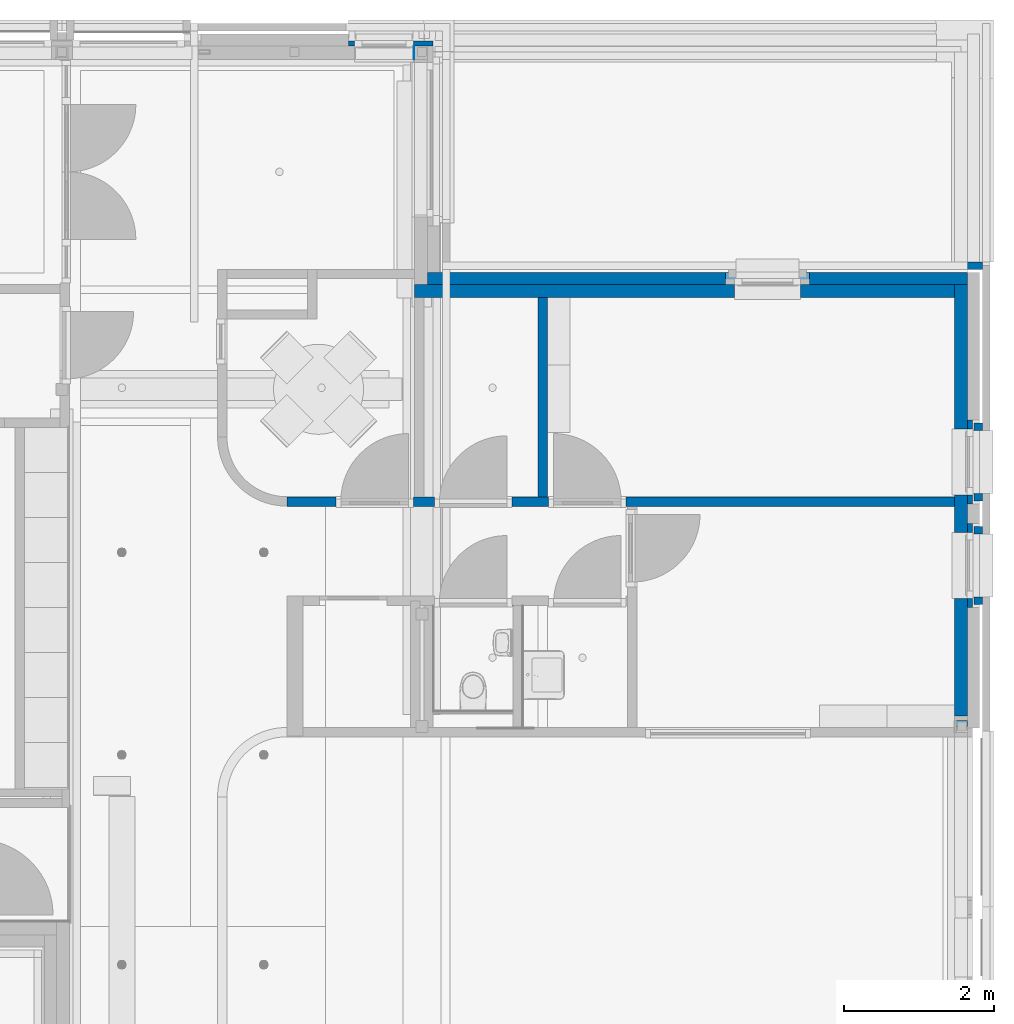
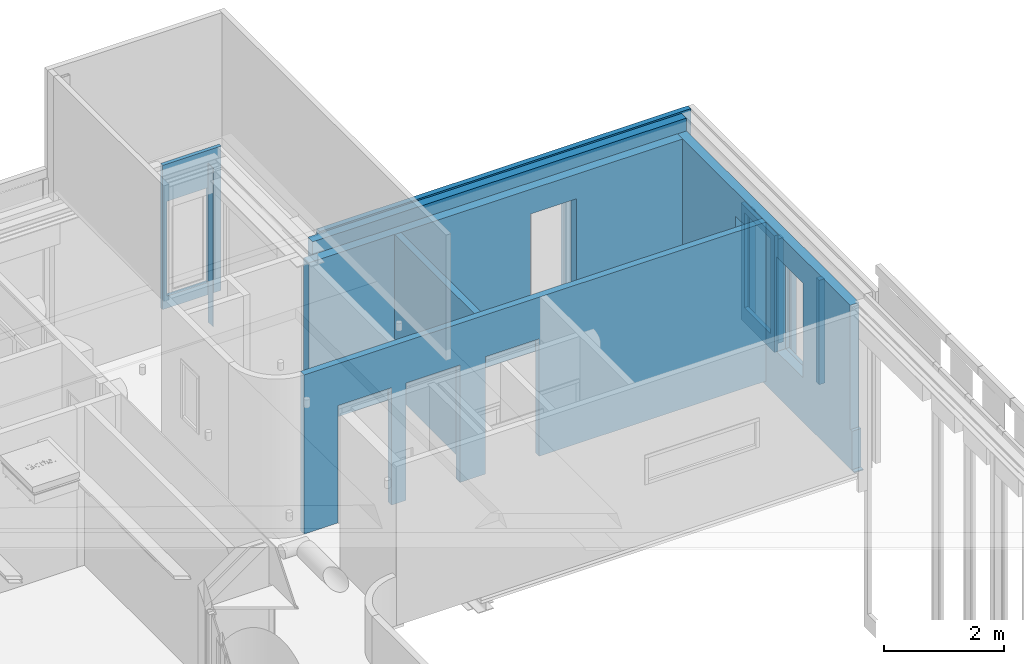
# One storey, part 58 of 128: 14 walls, 31 openings.
"""IFC2X3 building model written with IfcOpenShell, lengths in millimetres."""

from ifc_helpers import new_model, entity, si_unit, converted_unit, derived_unit, direction, frame, frame_2d, origin, origin_2d_with_axis, place, context, subcontext, project, spatial, polyline, rectangle, extrude, clip, bounded_halfspace, material, layer, layer_set, layer_usage, type_object, element, save


model = new_model("IFC2X3")

# Units and contexts
model_context = context("Model", 3, precision=0.01, world=origin(), true_north=direction((6.123031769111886e-17, 1.0)))
body_context = subcontext(model_context, "Body", "Model", "MODEL_VIEW")
ifc_project = project(units=[si_unit("LENGTHUNIT", "METRE", prefix="MILLI"), si_unit("AREAUNIT", "SQUARE_METRE"), si_unit("VOLUMEUNIT", "CUBIC_METRE"), converted_unit("PLANEANGLEUNIT", "DEGREE", entity("IfcRatioMeasure", 0.017453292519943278), si_unit("PLANEANGLEUNIT", "RADIAN"), dimensions=[0, 0, 0, 0, 0, 0, 0]), si_unit("MASSUNIT", "GRAM", prefix="KILO"), derived_unit("MASSDENSITYUNIT", [(si_unit("MASSUNIT", "GRAM", prefix="KILO"), 1), (si_unit("LENGTHUNIT", "METRE"), -3)]), derived_unit("IONCONCENTRATIONUNIT", [(si_unit("MASSUNIT", "GRAM", prefix="KILO"), 1), (si_unit("LENGTHUNIT", "METRE"), -3)]), derived_unit("MOMENTOFINERTIAUNIT", [(si_unit("LENGTHUNIT", "METRE"), 4)]), si_unit("TIMEUNIT", "SECOND"), si_unit("FREQUENCYUNIT", "HERTZ"), si_unit("THERMODYNAMICTEMPERATUREUNIT", "DEGREE_CELSIUS"), derived_unit("THERMALTRANSMITTANCEUNIT", [(si_unit("MASSUNIT", "GRAM", prefix="KILO"), 1), (si_unit("THERMODYNAMICTEMPERATUREUNIT", "KELVIN"), -1), (si_unit("TIMEUNIT", "SECOND"), -3)]), derived_unit("THERMALCONDUCTANCEUNIT", [(si_unit("MASSUNIT", "GRAM", prefix="KILO"), 1), (si_unit("THERMODYNAMICTEMPERATUREUNIT", "KELVIN"), -1), (si_unit("TIMEUNIT", "SECOND"), -3), (si_unit("LENGTHUNIT", "METRE"), 1)]), derived_unit("VOLUMETRICFLOWRATEUNIT", [(si_unit("LENGTHUNIT", "METRE"), 3), (si_unit("TIMEUNIT", "SECOND"), -1)]), derived_unit("MASSFLOWRATEUNIT", [(si_unit("MASSUNIT", "GRAM", prefix="KILO"), 1), (si_unit("TIMEUNIT", "SECOND"), -1)]), derived_unit("ROTATIONALFREQUENCYUNIT", [(si_unit("TIMEUNIT", "SECOND"), -1)]), si_unit("ELECTRICCURRENTUNIT", "AMPERE"), si_unit("ELECTRICVOLTAGEUNIT", "VOLT"), si_unit("POWERUNIT", "WATT"), si_unit("FORCEUNIT", "NEWTON", prefix="KILO"), si_unit("ILLUMINANCEUNIT", "LUX"), si_unit("LUMINOUSFLUXUNIT", "LUMEN"), si_unit("LUMINOUSINTENSITYUNIT", "CANDELA"), derived_unit("USERDEFINED", [(si_unit("MASSUNIT", "GRAM", prefix="KILO"), -1), (si_unit("LENGTHUNIT", "METRE"), -2), (si_unit("TIMEUNIT", "SECOND"), 3), (si_unit("LUMINOUSFLUXUNIT", "LUMEN"), 1)]), derived_unit("USERDEFINED", [(si_unit("MASSUNIT", "GRAM", prefix="KILO"), 1), (si_unit("TIMEUNIT", "SECOND"), -3), (si_unit("LENGTHUNIT", "METRE"), 3), (si_unit("ELECTRICCURRENTUNIT", "AMPERE"), -2)]), derived_unit("SOUNDPOWERUNIT", [(si_unit("MASSUNIT", "GRAM", prefix="KILO"), 1), (si_unit("TIMEUNIT", "SECOND"), -3), (si_unit("LENGTHUNIT", "METRE"), 2)]), derived_unit("SOUNDPRESSUREUNIT", [(si_unit("MASSUNIT", "GRAM", prefix="KILO"), 1), (si_unit("LENGTHUNIT", "METRE"), -1), (si_unit("TIMEUNIT", "SECOND"), -2)]), derived_unit("LINEARVELOCITYUNIT", [(si_unit("LENGTHUNIT", "METRE"), 1), (si_unit("TIMEUNIT", "SECOND"), -1)]), si_unit("PRESSUREUNIT", "PASCAL"), derived_unit("USERDEFINED", [(si_unit("MASSUNIT", "GRAM", prefix="KILO"), 1), (si_unit("LENGTHUNIT", "METRE"), -2), (si_unit("TIMEUNIT", "SECOND"), -2)]), derived_unit("LINEARFORCEUNIT", [(si_unit("MASSUNIT", "GRAM", prefix="KILO"), 1), (si_unit("TIMEUNIT", "SECOND"), -2)]), derived_unit("PLANARFORCEUNIT", [(si_unit("MASSUNIT", "GRAM", prefix="KILO"), 1), (si_unit("LENGTHUNIT", "METRE"), -1), (si_unit("TIMEUNIT", "SECOND"), -2)]), derived_unit("SPECIFICHEATCAPACITYUNIT", [(si_unit("THERMODYNAMICTEMPERATUREUNIT", "KELVIN"), -1), (si_unit("LENGTHUNIT", "METRE"), 2), (si_unit("TIMEUNIT", "SECOND"), -2)]), derived_unit("HEATINGVALUEUNIT", [(si_unit("LENGTHUNIT", "METRE"), 2), (si_unit("TIMEUNIT", "SECOND"), -2)]), derived_unit("VAPORPERMEABILITYUNIT", [(si_unit("LENGTHUNIT", "METRE"), -1), (si_unit("TIMEUNIT", "SECOND"), 1)]), derived_unit("DYNAMICVISCOSITYUNIT", [(si_unit("MASSUNIT", "GRAM", prefix="KILO"), 1), (si_unit("TIMEUNIT", "SECOND"), -1), (si_unit("LENGTHUNIT", "METRE"), -1)]), derived_unit("THERMALEXPANSIONCOEFFICIENTUNIT", [(si_unit("THERMODYNAMICTEMPERATUREUNIT", "KELVIN"), -1)]), derived_unit("MODULUSOFELASTICITYUNIT", [(si_unit("MASSUNIT", "GRAM", prefix="KILO"), 1), (si_unit("LENGTHUNIT", "METRE"), -1), (si_unit("TIMEUNIT", "SECOND"), -2)]), derived_unit("ISOTHERMALMOISTURECAPACITYUNIT", [(si_unit("LENGTHUNIT", "METRE"), 3), (si_unit("MASSUNIT", "GRAM", prefix="KILO"), -1)]), derived_unit("MOISTUREDIFFUSIVITYUNIT", [(si_unit("TIMEUNIT", "SECOND"), -1), (si_unit("LENGTHUNIT", "METRE"), 2)])], contexts=[model_context])

# Site, building, storey
site_placement = place(None, frame((0.0, 300.0, 0.0)))
site = spatial("IfcSite", under=ifc_project, at=site_placement, Name="<Kadastrale nummers>", CompositionType="ELEMENT")
building_placement = place(site_placement, origin())
building = spatial("IfcBuilding", under=site, at=building_placement, CompositionType="ELEMENT")
storey_placement = place(building_placement, frame((0.0, 0.0, 3560.0000331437)))
storey = spatial("IfcBuildingStorey", under=building, at=storey_placement, Name="01 eerste verdieping", CompositionType="ELEMENT", Elevation=3560.0000331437)

# Wall, opening
ifc_material_1 = material(Name="ISR_Metselwerk")
ifc_layer_1 = layer(ifc_material_1, 100.0)
ifc_layer_set_1 = layer_set([ifc_layer_1], Name="Basic Wall:21_DAT_metselwerk_100")
ifc_layer_usage_1 = layer_usage(ifc_layer_set_1, "AXIS2", "POSITIVE", -50.0)
wall_type_1 = type_object("IfcWallType", Name="Basic Wall:21_DAT_metselwerk_100", PredefinedType="STANDARD", material=ifc_layer_set_1)
wall_1_placement = place(storey_placement, frame((48875.0, 46950.0, 389.9999668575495), z_axis=(0.0, 0.0, 1.0), x_axis=(-1.0, 0.0, 0.0)))
wall_1 = element("IfcWallStandardCase", 1, at=wall_1_placement, inside=storey, type_object=wall_type_1, material=ifc_layer_usage_1, Name="Basic Wall:21_DAT_metselwerk_100", ObjectType="Basic Wall:21_DAT_metselwerk_100", context=body_context, shape_type="SweptSolid", body=[
    extrude(rectangle(XDim=7150.000000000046, YDim=100.00000000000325, at=frame_2d((3575.000000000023, -3.9825920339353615e-12), x_axis=(-1.0, 0.0))), origin(), (0.0, 0.0, 1.0), 3200.000035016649),
])
opening_1_placement = place(wall_1_placement, frame((48875.0, 46950.0, -389.9999668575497), z_axis=(0.0, 0.0, 1.0), x_axis=(-1.0, 0.0, 0.0)))
element("IfcOpeningElement", 2, at=opening_1_placement, cuts=wall_1, Name="Basic Wall:21_DAT_metselwerk_100", ObjectType="Opening", context=body_context, shape_type="SweptSolid", body=[
    extrude(rectangle(XDim=2124.999999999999, YDim=839.9999999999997, at=frame_2d((0.0, -7.958078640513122e-13), x_axis=(0.0, 1.0))), frame((46010.0, 47000.0, 1777.500001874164), z_axis=(0.0, -1.0, 0.0), x_axis=(-1.0, 0.0, 0.0)), (0.0, 0.0, 1.0), 100.00000000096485),
])

# Walls
ifc_layer_usage_2 = layer_usage(ifc_layer_set_1, "AXIS2", "NEGATIVE", 50.0)
wall_2_placement = place(storey_placement, frame((48875.0, 43422.12500266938, 715.0000018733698), z_axis=(0.0, 0.0, 1.0), x_axis=(-1.0, 0.0, 0.0)))
element("IfcWallStandardCase", 3, at=wall_2_placement, inside=storey, type_object=wall_type_1, material=ifc_layer_usage_2, Name="Basic Wall:21_DAT_metselwerk_100", ObjectType="Basic Wall:21_DAT_metselwerk_100", context=body_context, shape_type="SweptSolid", body=[
    extrude(rectangle(XDim=110.00000000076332, YDim=99.9999999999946, at=frame_2d((55.00000000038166, 2.3447910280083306e-12), x_axis=(-1.0, 0.0))), origin(), (0.0, 0.0, 1.0), 2125.0000000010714),
])
wall_3_placement = place(storey_placement, frame((48875.0, 42482.1250026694, 715.0000018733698), z_axis=(0.0, 0.0, 1.0), x_axis=(-1.0, 0.0, 0.0)))
element("IfcWallStandardCase", 4, at=wall_3_placement, inside=storey, type_object=wall_type_1, material=ifc_layer_usage_1, Name="Basic Wall:21_DAT_metselwerk_100", ObjectType="Basic Wall:21_DAT_metselwerk_100", context=body_context, shape_type="SweptSolid", body=[
    extrude(rectangle(XDim=110.00000000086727, YDim=99.9999999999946, at=frame_2d((55.00000000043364, 2.3447910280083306e-12), x_axis=(-1.0, 0.0))), origin(), (0.0, 0.0, 1.0), 2125.0000000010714),
])
wall_4_placement = place(storey_placement, frame((48875.0, 44802.12500266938, 715.0000018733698), z_axis=(0.0, 0.0, 1.0), x_axis=(-1.0, 0.0, 0.0)))
element("IfcWallStandardCase", 5, at=wall_4_placement, inside=storey, type_object=wall_type_1, material=ifc_layer_usage_2, Name="Basic Wall:21_DAT_metselwerk_100", ObjectType="Basic Wall:21_DAT_metselwerk_100", context=body_context, shape_type="SweptSolid", body=[
    extrude(rectangle(XDim=110.00000000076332, YDim=99.9999999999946, at=frame_2d((55.00000000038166, 2.3447910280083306e-12), x_axis=(-1.0, 0.0))), origin(), (0.0, 0.0, 1.0), 2125.0000000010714),
])
wall_5_placement = place(storey_placement, frame((48875.0, 43862.12500266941, 715.0000018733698), z_axis=(0.0, 0.0, 1.0), x_axis=(-1.0, 0.0, 0.0)))
element("IfcWallStandardCase", 6, at=wall_5_placement, inside=storey, type_object=wall_type_1, material=ifc_layer_usage_1, Name="Basic Wall:21_DAT_metselwerk_100", ObjectType="Basic Wall:21_DAT_metselwerk_100", context=body_context, shape_type="SweptSolid", body=[
    extrude(rectangle(XDim=110.0000000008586, YDim=99.9999999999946, at=frame_2d((55.0000000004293, 2.3447910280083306e-12), x_axis=(-1.0, 0.0))), origin(), (0.0, 0.0, 1.0), 2125.0000000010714),
])
ifc_material_2 = material(Name="ISR_Gips")
ifc_layer_2 = layer(ifc_material_2, 1.0)
ifc_material_3 = material(Name="ISR_Binnenwand")
ifc_layer_3 = layer(ifc_material_3, 123.0)
ifc_layer_4 = layer(ifc_material_2, 1.0)
ifc_layer_set_2 = layer_set([ifc_layer_2, ifc_layer_3, ifc_layer_4], Name="Basic Wall:22_DAT_binnenwand_125")
ifc_layer_usage_3 = layer_usage(ifc_layer_set_2, "AXIS2", "NEGATIVE", 62.50000000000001)
wall_type_2 = type_object("IfcWallType", Name="Basic Wall:22_DAT_binnenwand_125", PredefinedType="STANDARD", material=ifc_layer_set_2)
wall_6_placement = place(storey_placement, frame((43012.500000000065, 46525.0, 90.00000187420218), z_axis=(0.0, 0.0, 1.0), x_axis=(0.0, -1.0, 0.0)))
element("IfcWallStandardCase", 7, at=wall_6_placement, inside=storey, type_object=wall_type_2, material=ifc_layer_usage_3, Name="Basic Wall:22_DAT_binnenwand_125", ObjectType="Basic Wall:22_DAT_binnenwand_125", context=body_context, shape_type="SweptSolid", body=[
    extrude(rectangle(XDim=2660.0000000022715, YDim=125.00000000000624, at=frame_2d((1330.0000000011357, 0.0), x_axis=(-1.0, 0.0))), origin(), (0.0, 0.0, 1.0), 3239.9999999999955),
])

# Wall, openings
wall_7_placement = place(storey_placement, frame((48500.0, 43802.49999999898, 90.00000187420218), z_axis=(0.0, 0.0, 1.0), x_axis=(-1.0, 0.0, 0.0)))
wall_7 = element("IfcWallStandardCase", 8, at=wall_7_placement, inside=storey, type_object=wall_type_2, material=ifc_layer_usage_3, Name="Basic Wall:22_DAT_binnenwand_125", ObjectType="Basic Wall:22_DAT_binnenwand_125", context=body_context, shape_type="SweptSolid", body=[
    extrude(rectangle(XDim=8900.000000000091, YDim=125.00000000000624, at=frame_2d((4450.0000000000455, -2.9736213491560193e-12), x_axis=(-1.0, 0.0))), origin(), (0.0, 0.0, 1.0), 3239.9999999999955),
])
opening_2_placement = place(wall_7_placement, origin())
element("IfcOpeningElement", 9, at=opening_2_placement, cuts=wall_7, Name="Basic Wall:22_DAT_binnenwand_125", ObjectType="Opening", context=body_context, shape_type="SweptSolid", body=[
    extrude(rectangle(XDim=2390.0000000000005, YDim=1034.0000000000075, at=frame_2d((0.0, 0.0), x_axis=(0.0, 1.0))), frame((6418.0, -214.89999999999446, 1195.0), z_axis=(0.0, 1.0, 0.0), x_axis=(-1.0, 0.0, 0.0)), (0.0, 0.0, 1.0), 429.79999999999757),
])
opening_3_placement = place(wall_7_placement, origin())
element("IfcOpeningElement", 10, at=opening_3_placement, cuts=wall_7, Name="Basic Wall:22_DAT_binnenwand_125", ObjectType="Opening", context=body_context, shape_type="SweptSolid", body=[
    extrude(rectangle(XDim=2390.0000000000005, YDim=1034.0000000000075, at=frame_2d((0.0, 0.0), x_axis=(0.0, 1.0))), frame((7732.0, -214.89999999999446, 1195.0), z_axis=(0.0, 1.0, 0.0), x_axis=(-1.0, 0.0, 0.0)), (0.0, 0.0, 1.0), 429.79999999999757),
])
opening_4_placement = place(wall_7_placement, origin())
element("IfcOpeningElement", 11, at=opening_4_placement, cuts=wall_7, Name="Basic Wall:22_DAT_binnenwand_125", ObjectType="Opening", context=body_context, shape_type="SweptSolid", body=[
    extrude(rectangle(XDim=2390.0000000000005, YDim=1034.0000000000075, at=origin_2d_with_axis()), frame((4893.0, -214.90000000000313, 1195.0), z_axis=(0.0, 1.0, 0.0), x_axis=(0.0, 0.0, 1.0)), (0.0, 0.0, 1.0), 429.79999999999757),
])

# Wall, opening
ifc_layer_5 = layer(ifc_material_2, 1.0)
ifc_material_4 = material(Name="ISR_Kalkzandsteen")
ifc_layer_6 = layer(ifc_material_4, 173.0)
ifc_layer_7 = layer(ifc_material_2, 1.0)
ifc_layer_set_3 = layer_set([ifc_layer_5, ifc_layer_6, ifc_layer_7], Name="Basic Wall:28_DAT_kalkzandsteen_175mm")
ifc_layer_usage_4 = layer_usage(ifc_layer_set_3, "AXIS2", "NEGATIVE", 87.49999999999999)
wall_type_3 = type_object("IfcWallType", Name="Basic Wall:28_DAT_kalkzandsteen_175mm", PredefinedType="STANDARD", material=ifc_layer_set_3)
wall_8_placement = place(storey_placement, frame((41300.0, 46612.50000000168, 0.0)))
wall_8 = element("IfcWallStandardCase", 12, at=wall_8_placement, inside=storey, type_object=wall_type_3, material=ifc_layer_usage_4, Name="Basic Wall:28_DAT_kalkzandsteen_175mm", ObjectType="Basic Wall:28_DAT_kalkzandsteen_175mm", context=body_context, shape_type="SweptSolid", body=[
    extrude(rectangle(XDim=7199.999999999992, YDim=175.00000000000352, at=frame_2d((3599.999999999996, -4.334310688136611e-12), x_axis=(-1.0, 0.0))), origin(), (0.0, 0.0, 1.0), 3330.000001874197),
])
opening_5_placement = place(wall_8_placement, origin())
element("IfcOpeningElement", 13, at=opening_5_placement, cuts=wall_8, Name="Basic Wall:28_DAT_kalkzandsteen_175mm", ObjectType="Opening", context=body_context, shape_type="SweptSolid", body=[
    extrude(rectangle(XDim=1929.9999999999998, YDim=880.0000000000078, at=frame_2d((0.0, 5.684341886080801e-13), x_axis=(0.0, 1.0))), frame((4710.0, -239.90000000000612, 1865.0), z_axis=(0.0, 1.0, 0.0), x_axis=(-1.0, 0.0, 0.0)), (0.0, 0.0, 1.0), 479.80000000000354),
])

# Wall, openings
wall_9_placement = place(storey_placement, frame((48587.50000000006, 40799.99947471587, 0.0), z_axis=(0.0, 0.0, 1.0), x_axis=(0.0, 1.0, 0.0)))
wall_9 = element("IfcWallStandardCase", 14, at=wall_9_placement, inside=storey, type_object=wall_type_3, material=ifc_layer_usage_4, Name="Basic Wall:28_DAT_kalkzandsteen_175mm", ObjectType="Basic Wall:28_DAT_kalkzandsteen_175mm", context=body_context, shape_type="Clipping", body=[
    clip(clip(extrude(rectangle(XDim=5900.000525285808, YDim=175.00000000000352, at=frame_2d((2950.000262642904, -4.270361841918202e-12), x_axis=(-1.0, 0.0))), origin(), (0.0, 0.0, 1.0), 3330.000001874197), bounded_halfspace(frame((140.0, -87.50000000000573, 800.0000018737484), z_axis=(0.0, 0.0, -1.0), x_axis=(0.0, 1.0, 0.0)), True, frame((140.0, -87.50000000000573, 800.0000018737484), z_axis=(0.0, 0.0, -1.0), x_axis=(0.0, 1.0, 0.0)), polyline([(0.0, 0.0), (0.0, -60.0), (175.0, -60.0), (175.0, 0.0), (0.0, 0.0)]))), bounded_halfspace(frame((140.0, 87.49999999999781, 800.0000018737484), z_axis=(1.0, 0.0, 0.0), x_axis=(0.0, 1.0, 0.0)), True, frame((140.0, 87.49999999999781, 800.0000018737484), z_axis=(1.0, 0.0, 0.0), x_axis=(0.0, 1.0, 0.0)), polyline([(0.0, 0.0), (0.0, 2530.0), (-175.0, 2530.0), (-175.0, 0.0), (0.0, 0.0)]))),
])
opening_6_placement = place(wall_9_placement, origin())
element("IfcOpeningElement", 15, at=opening_6_placement, cuts=wall_9, Name="Basic Wall:28_DAT_kalkzandsteen_175mm", ObjectType="Opening", context=body_context, shape_type="SweptSolid", body=[
    extrude(rectangle(XDim=3310.0000290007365, YDim=159.99999999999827, at=frame_2d((-3.410605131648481e-13, 0.0), x_axis=(1.0, 0.0))), frame((0.0, -239.90000000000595, 1675.0000163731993), z_axis=(0.0, 1.0, 0.0), x_axis=(0.0, 0.0, 1.0)), (0.0, 0.0, 1.0), 479.80000000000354),
])
opening_7_placement = place(wall_9_placement, origin())
element("IfcOpeningElement", 16, at=opening_7_placement, cuts=wall_9, Name="Basic Wall:28_DAT_kalkzandsteen_175mm", ObjectType="Opening", context=body_context, shape_type="SweptSolid", body=[
    extrude(rectangle(XDim=1929.9999999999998, YDim=880.0000000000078, at=frame_2d((5.684341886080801e-13, 0.0), x_axis=(1.0, 0.0))), frame((2152.1255279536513, -239.9000000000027, 1865.0), z_axis=(0.0, 1.0, 0.0), x_axis=(0.0, 0.0, 1.0)), (0.0, 0.0, 1.0), 479.80000000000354),
])
opening_8_placement = place(wall_9_placement, origin())
element("IfcOpeningElement", 17, at=opening_8_placement, cuts=wall_9, Name="Basic Wall:28_DAT_kalkzandsteen_175mm", ObjectType="Opening", context=body_context, shape_type="SweptSolid", body=[
    extrude(rectangle(XDim=1929.9999999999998, YDim=880.0000000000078, at=frame_2d((5.684341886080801e-13, 0.0), x_axis=(1.0, 0.0))), frame((3532.1255279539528, -239.90000000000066, 1865.0), z_axis=(0.0, 1.0, 0.0), x_axis=(0.0, 0.0, 1.0)), (0.0, 0.0, 1.0), 479.80000000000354),
])

# Wall, opening
ifc_material_5 = material(Name="ISR_Isolatie")
ifc_layer_8 = layer(ifc_material_5, 160.0)
ifc_layer_set_4 = layer_set([ifc_layer_8], Name="Basic Wall:21_DAT_isolatie minerale wol_160")
ifc_layer_usage_5 = layer_usage(ifc_layer_set_4, "AXIS2", "NEGATIVE", 80.0)
wall_type_4 = type_object("IfcWallType", Name="Basic Wall:21_DAT_isolatie minerale wol_160", PredefinedType="STANDARD", material=ifc_layer_set_4)
wall_10_placement = place(storey_placement, frame((41475.0, 46780.0, 0.0)))
wall_10 = element("IfcWallStandardCase", 18, at=wall_10_placement, inside=storey, type_object=wall_type_4, material=ifc_layer_usage_5, Name="Basic Wall:21_DAT_isolatie minerale wol_160", ObjectType="Basic Wall:21_DAT_isolatie minerale wol_160", context=body_context, shape_type="SweptSolid", body=[
    extrude(rectangle(XDim=7200.000000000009, YDim=159.9999999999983, at=frame_2d((3600.0000000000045, 2.913225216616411e-13), x_axis=(-1.0, 0.0))), origin(), (0.0, 0.0, 1.0), 3590.000001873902),
])
opening_9_placement = place(wall_10_placement, origin())
element("IfcOpeningElement", 19, at=opening_9_placement, cuts=wall_10, Name="Basic Wall:21_DAT_isolatie minerale wol_160", ObjectType="Opening", context=body_context, shape_type="SweptSolid", body=[
    extrude(rectangle(XDim=2375.000035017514, YDim=1119.9999999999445, at=frame_2d((4.376943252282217e-12, 0.0), x_axis=(0.0, 1.0))), frame((4535.0, -232.39999999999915, 1777.4999843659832), z_axis=(0.0, 1.0, 0.0), x_axis=(-1.0, 0.0, 0.0)), (0.0, 0.0, 1.0), 464.7999999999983),
])

# Wall
ifc_layer_9 = layer(ifc_material_2, 12.5)
ifc_layer_10 = layer(ifc_material_2, 12.5)
ifc_material_6 = material(Name="ISR_Dak_isolatie(198)")
ifc_layer_11 = layer(ifc_material_6, 140.0)
ifc_material_7 = material(Name="ISR_Multiplex")
ifc_layer_12 = layer(ifc_material_7, 10.0)
ifc_layer_set_5 = layer_set([ifc_layer_9, ifc_layer_10, ifc_layer_11, ifc_layer_12], Name="Basic Wall:21_DAT_Hekwerk 175")
ifc_layer_usage_6 = layer_usage(ifc_layer_set_5, "AXIS2", "NEGATIVE", 87.5)
wall_type_5 = type_object("IfcWallType", Name="Basic Wall:21_DAT_Hekwerk 175", PredefinedType="STANDARD", material=ifc_layer_set_5)
wall_11_placement = place(storey_placement, frame((41300.0, 49787.4999999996, 100.00000187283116), z_axis=(0.0, 0.0, 1.0), x_axis=(-1.0, 0.0, 0.0)))
element("IfcWallStandardCase", 20, at=wall_11_placement, inside=storey, type_object=wall_type_5, material=ifc_layer_usage_6, Name="Basic Wall:21_DAT_Hekwerk 175", ObjectType="Basic Wall:21_DAT_Hekwerk 175", context=body_context, shape_type="SweptSolid", body=[
    extrude(rectangle(XDim=11.000000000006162, YDim=174.99999999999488, at=frame_2d((5.500000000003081, -2.842170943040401e-14), x_axis=(-1.0, 0.0))), origin(), (0.0, 0.0, 1.0), 3230.0000290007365),
])

# Wall, openings
ifc_layer_13 = layer(ifc_material_5, 70.0)
ifc_layer_set_6 = layer_set([ifc_layer_13], Name="Basic Wall:21_DAT_isolatie hard_74")
ifc_layer_usage_7 = layer_usage(ifc_layer_set_6, "AXIS2", "NEGATIVE", 35.0)
wall_type_6 = type_object("IfcWallType", Name="Basic Wall:21_DAT_isolatie hard_74", PredefinedType="STANDARD", material=ifc_layer_set_6)
wall_12_placement = place(storey_placement, frame((40418.0, 49910.0, 652.5000018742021)))
wall_12 = element("IfcWallStandardCase", 21, at=wall_12_placement, inside=storey, type_object=wall_type_6, material=ifc_layer_usage_7, Name="Basic Wall:21_DAT_isolatie hard_74", ObjectType="Basic Wall:21_DAT_isolatie hard_74", context=body_context, shape_type="SweptSolid", body=[
    extrude(rectangle(XDim=1126.999999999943, YDim=70.0000000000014, at=frame_2d((563.4999999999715, 0.0), x_axis=(-1.0, 0.0))), origin(), (0.0, 0.0, 1.0), 2937.4999999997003),
])
opening_10_placement = place(wall_12_placement, origin())
element("IfcOpeningElement", 22, at=opening_10_placement, cuts=wall_12, Name="Basic Wall:21_DAT_isolatie hard_74", ObjectType="Opening", context=body_context, shape_type="SweptSolid", body=[
    extrude(rectangle(XDim=1929.9999649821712, YDim=789.9999999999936, at=frame_2d((0.0, 5.684341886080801e-13), x_axis=(0.0, 1.0))), frame((476.0, -187.40000000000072, 1212.4999824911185), z_axis=(0.0, 1.0, 0.0), x_axis=(-1.0, 0.0, 0.0)), (0.0, 0.0, 1.0), 374.80000000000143),
])
opening_11_placement = place(wall_12_placement, origin())
element("IfcOpeningElement", 23, at=opening_11_placement, cuts=wall_12, Name="Basic Wall:21_DAT_isolatie hard_74", ObjectType="Opening", context=body_context, shape_type="SweptSolid", body=[
    extrude(rectangle(XDim=1929.9999649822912, YDim=790.0000000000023, at=frame_2d((0.0, 0.0), x_axis=(0.0, 1.0))), frame((-36883.0, -187.40000000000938, 1212.499982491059), z_axis=(0.0, 1.0, 0.0), x_axis=(-1.0, 0.0, 0.0)), (0.0, 0.0, 1.0), 374.80000000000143),
])
opening_12_placement = place(wall_12_placement, origin())
element("IfcOpeningElement", 24, at=opening_12_placement, cuts=wall_12, Name="Basic Wall:21_DAT_isolatie hard_74", ObjectType="Opening", context=body_context, shape_type="SweptSolid", body=[
    extrude(rectangle(XDim=1929.9999649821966, YDim=2249.9999999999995, at=frame_2d((4.320099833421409e-12, -2.8421709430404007e-13), x_axis=(0.0, 1.0))), frame((-10953.0, -187.40000000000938, 1212.499982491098), z_axis=(0.0, 1.0, 0.0), x_axis=(-1.0, 0.0, 0.0)), (0.0, 0.0, 1.0), 374.80000000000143),
])
opening_13_placement = place(wall_12_placement, origin())
element("IfcOpeningElement", 25, at=opening_13_placement, cuts=wall_12, Name="Basic Wall:21_DAT_isolatie hard_74", ObjectType="Opening", context=body_context, shape_type="SweptSolid", body=[
    extrude(rectangle(XDim=1929.9999649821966, YDim=2249.9999999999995, at=frame_2d((4.320099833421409e-12, -2.8421709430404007e-13), x_axis=(0.0, 1.0))), frame((-13483.0, -187.40000000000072, 1212.499982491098), z_axis=(0.0, 1.0, 0.0), x_axis=(-1.0, 0.0, 0.0)), (0.0, 0.0, 1.0), 374.80000000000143),
])
opening_14_placement = place(wall_12_placement, origin())
element("IfcOpeningElement", 26, at=opening_14_placement, cuts=wall_12, Name="Basic Wall:21_DAT_isolatie hard_74", ObjectType="Opening", context=body_context, shape_type="SweptSolid", body=[
    extrude(rectangle(XDim=1929.9999649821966, YDim=2249.9999999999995, at=frame_2d((0.0, -2.8421709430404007e-13), x_axis=(0.0, 1.0))), frame((-18153.0, -187.40000000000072, 1212.499982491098), z_axis=(0.0, 1.0, 0.0), x_axis=(-1.0, 0.0, 0.0)), (0.0, 0.0, 1.0), 374.80000000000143),
])
opening_15_placement = place(wall_12_placement, origin())
element("IfcOpeningElement", 27, at=opening_15_placement, cuts=wall_12, Name="Basic Wall:21_DAT_isolatie hard_74", ObjectType="Opening", context=body_context, shape_type="SweptSolid", body=[
    extrude(rectangle(XDim=1929.9999649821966, YDim=2250.0000000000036, at=frame_2d((-2.1600499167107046e-12, -2.8421709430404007e-13), x_axis=(0.0, 1.0))), frame((-20683.0, -187.40000000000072, 1212.499982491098), z_axis=(0.0, 1.0, 0.0), x_axis=(-1.0, 0.0, 0.0)), (0.0, 0.0, 1.0), 374.80000000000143),
])
opening_16_placement = place(wall_12_placement, origin())
element("IfcOpeningElement", 28, at=opening_16_placement, cuts=wall_12, Name="Basic Wall:21_DAT_isolatie hard_74", ObjectType="Opening", context=body_context, shape_type="SweptSolid", body=[
    extrude(rectangle(XDim=1929.9999649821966, YDim=2249.9999999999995, at=frame_2d((0.0, -2.8421709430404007e-13), x_axis=(0.0, 1.0))), frame((-25353.0, -187.40000000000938, 1212.499982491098), z_axis=(0.0, 1.0, 0.0), x_axis=(-1.0, 0.0, 0.0)), (0.0, 0.0, 1.0), 374.80000000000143),
])
opening_17_placement = place(wall_12_placement, origin())
element("IfcOpeningElement", 29, at=opening_17_placement, cuts=wall_12, Name="Basic Wall:21_DAT_isolatie hard_74", ObjectType="Opening", context=body_context, shape_type="SweptSolid", body=[
    extrude(rectangle(XDim=1929.9999649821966, YDim=2249.9999999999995, at=frame_2d((0.0, -2.8421709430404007e-13), x_axis=(0.0, 1.0))), frame((-27883.0, -187.40000000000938, 1212.499982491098), z_axis=(0.0, 1.0, 0.0), x_axis=(-1.0, 0.0, 0.0)), (0.0, 0.0, 1.0), 374.80000000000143),
])
opening_18_placement = place(wall_12_placement, origin())
element("IfcOpeningElement", 30, at=opening_18_placement, cuts=wall_12, Name="Basic Wall:21_DAT_isolatie hard_74", ObjectType="Opening", context=body_context, shape_type="SweptSolid", body=[
    extrude(rectangle(XDim=1929.9999649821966, YDim=2249.9999999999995, at=frame_2d((0.0, -2.8421709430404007e-13), x_axis=(0.0, 1.0))), frame((-35083.0, -187.40000000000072, 1212.499982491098), z_axis=(0.0, 1.0, 0.0), x_axis=(-1.0, 0.0, 0.0)), (0.0, 0.0, 1.0), 374.80000000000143),
])
opening_19_placement = place(wall_12_placement, origin())
element("IfcOpeningElement", 31, at=opening_19_placement, cuts=wall_12, Name="Basic Wall:21_DAT_isolatie hard_74", ObjectType="Opening", context=body_context, shape_type="SweptSolid", body=[
    extrude(rectangle(XDim=1929.9999649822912, YDim=789.999999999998, at=frame_2d((-2.1600499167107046e-12, 0.0), x_axis=(0.0, 1.0))), frame((-8083.0, -187.40000000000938, 1212.499982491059), z_axis=(0.0, 1.0, 0.0), x_axis=(-1.0, 0.0, 0.0)), (0.0, 0.0, 1.0), 374.80000000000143),
])
opening_20_placement = place(wall_12_placement, origin())
element("IfcOpeningElement", 32, at=opening_20_placement, cuts=wall_12, Name="Basic Wall:21_DAT_isolatie hard_74", ObjectType="Opening", context=body_context, shape_type="SweptSolid", body=[
    extrude(rectangle(XDim=1929.9999649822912, YDim=789.999999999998, at=frame_2d((-2.1600499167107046e-12, 0.0), x_axis=(0.0, 1.0))), frame((-9153.0, -187.40000000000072, 1212.499982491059), z_axis=(0.0, 1.0, 0.0), x_axis=(-1.0, 0.0, 0.0)), (0.0, 0.0, 1.0), 374.80000000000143),
])
opening_21_placement = place(wall_12_placement, origin())
element("IfcOpeningElement", 33, at=opening_21_placement, cuts=wall_12, Name="Basic Wall:21_DAT_isolatie hard_74", ObjectType="Opening", context=body_context, shape_type="SweptSolid", body=[
    extrude(rectangle(XDim=1929.9999649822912, YDim=789.999999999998, at=frame_2d((-2.1600499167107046e-12, 0.0), x_axis=(0.0, 1.0))), frame((-15283.0, -187.40000000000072, 1212.499982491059), z_axis=(0.0, 1.0, 0.0), x_axis=(-1.0, 0.0, 0.0)), (0.0, 0.0, 1.0), 374.80000000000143),
])
opening_22_placement = place(wall_12_placement, origin())
element("IfcOpeningElement", 34, at=opening_22_placement, cuts=wall_12, Name="Basic Wall:21_DAT_isolatie hard_74", ObjectType="Opening", context=body_context, shape_type="SweptSolid", body=[
    extrude(rectangle(XDim=1929.9999649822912, YDim=789.999999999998, at=frame_2d((-2.1600499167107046e-12, 0.0), x_axis=(0.0, 1.0))), frame((-16353.0, -187.40000000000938, 1212.499982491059), z_axis=(0.0, 1.0, 0.0), x_axis=(-1.0, 0.0, 0.0)), (0.0, 0.0, 1.0), 374.80000000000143),
])
opening_23_placement = place(wall_12_placement, origin())
element("IfcOpeningElement", 35, at=opening_23_placement, cuts=wall_12, Name="Basic Wall:21_DAT_isolatie hard_74", ObjectType="Opening", context=body_context, shape_type="SweptSolid", body=[
    extrude(rectangle(XDim=1929.9999649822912, YDim=789.9999999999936, at=frame_2d((0.0, 0.0), x_axis=(0.0, 1.0))), frame((-22483.0, -187.40000000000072, 1212.499982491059), z_axis=(0.0, 1.0, 0.0), x_axis=(-1.0, 0.0, 0.0)), (0.0, 0.0, 1.0), 374.80000000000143),
])
opening_24_placement = place(wall_12_placement, origin())
element("IfcOpeningElement", 36, at=opening_24_placement, cuts=wall_12, Name="Basic Wall:21_DAT_isolatie hard_74", ObjectType="Opening", context=body_context, shape_type="SweptSolid", body=[
    extrude(rectangle(XDim=1929.9999649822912, YDim=789.9999999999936, at=frame_2d((0.0, 0.0), x_axis=(0.0, 1.0))), frame((-23553.0, -187.40000000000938, 1212.499982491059), z_axis=(0.0, 1.0, 0.0), x_axis=(-1.0, 0.0, 0.0)), (0.0, 0.0, 1.0), 374.80000000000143),
])
opening_25_placement = place(wall_12_placement, origin())
element("IfcOpeningElement", 37, at=opening_25_placement, cuts=wall_12, Name="Basic Wall:21_DAT_isolatie hard_74", ObjectType="Opening", context=body_context, shape_type="SweptSolid", body=[
    extrude(rectangle(XDim=1929.9999649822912, YDim=789.9999999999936, at=frame_2d((0.0, 0.0), x_axis=(0.0, 1.0))), frame((-29683.0, -187.40000000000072, 1212.499982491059), z_axis=(0.0, 1.0, 0.0), x_axis=(-1.0, 0.0, 0.0)), (0.0, 0.0, 1.0), 374.80000000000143),
])
opening_26_placement = place(wall_12_placement, origin())
element("IfcOpeningElement", 38, at=opening_26_placement, cuts=wall_12, Name="Basic Wall:21_DAT_isolatie hard_74", ObjectType="Opening", context=body_context, shape_type="SweptSolid", body=[
    extrude(rectangle(XDim=1929.9999649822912, YDim=789.9999999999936, at=frame_2d((0.0, 0.0), x_axis=(0.0, 1.0))), frame((-30753.0, -187.40000000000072, 1212.499982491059), z_axis=(0.0, 1.0, 0.0), x_axis=(-1.0, 0.0, 0.0)), (0.0, 0.0, 1.0), 374.80000000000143),
])
opening_27_placement = place(wall_12_placement, origin())
element("IfcOpeningElement", 39, at=opening_27_placement, cuts=wall_12, Name="Basic Wall:21_DAT_isolatie hard_74", ObjectType="Opening", context=body_context, shape_type="SweptSolid", body=[
    extrude(rectangle(XDim=2759.9999649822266, YDim=3450.000000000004, at=frame_2d((0.0, -2.2737367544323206e-13), x_axis=(0.0, 1.0))), frame((-5683.0, -187.40000000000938, 797.499982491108), z_axis=(0.0, 1.0, 0.0), x_axis=(-1.0, 0.0, 0.0)), (0.0, 0.0, 1.0), 374.80000000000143),
])
opening_28_placement = place(wall_12_placement, origin())
element("IfcOpeningElement", 40, at=opening_28_placement, cuts=wall_12, Name="Basic Wall:21_DAT_isolatie hard_74", ObjectType="Opening", context=body_context, shape_type="SweptSolid", body=[
    extrude(rectangle(XDim=1929.9999649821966, YDim=2249.9999999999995, at=frame_2d((0.0, -2.8421709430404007e-13), x_axis=(0.0, 1.0))), frame((-32553.0, -187.40000000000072, 1212.499982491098), z_axis=(0.0, 1.0, 0.0), x_axis=(-1.0, 0.0, 0.0)), (0.0, 0.0, 1.0), 374.80000000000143),
])
opening_29_placement = place(wall_12_placement, origin())
element("IfcOpeningElement", 41, at=opening_29_placement, cuts=wall_12, Name="Basic Wall:21_DAT_isolatie hard_74", ObjectType="Opening", context=body_context, shape_type="SweptSolid", body=[
    extrude(rectangle(XDim=2759.9999649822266, YDim=1495.0000000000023, at=frame_2d((-2.1600499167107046e-12, -2.2737367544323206e-13), x_axis=(0.0, 1.0))), frame((-2930.500000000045, -187.40000000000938, 797.499982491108), z_axis=(0.0, 1.0, 0.0), x_axis=(-1.0, 0.0, 0.0)), (0.0, 0.0, 1.0), 374.80000000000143),
])

# Wall, opening
ifc_layer_usage_8 = layer_usage(ifc_layer_set_6, "AXIS2", "POSITIVE", -35.0)
wall_13_placement = place(storey_placement, frame((48710.0, 42392.12500266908, 589.9999668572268), z_axis=(0.0, 0.0, 1.0), x_axis=(0.0, 1.0, 0.0)))
wall_13 = element("IfcWallStandardCase", 42, at=wall_13_placement, inside=storey, type_object=wall_type_6, material=ifc_layer_usage_8, Name="Basic Wall:21_DAT_isolatie hard_74", ObjectType="Basic Wall:21_DAT_isolatie hard_74", context=body_context, shape_type="SweptSolid", body=[
    extrude(rectangle(XDim=1119.9999999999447, YDim=70.00000000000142, at=frame_2d((559.9999999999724, 9.343636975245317e-13), x_axis=(-1.0, 0.0))), origin(), (0.0, 0.0, 1.0), 2375.000035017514),
])
opening_30_placement = place(wall_13_placement, origin())
element("IfcOpeningElement", 43, at=opening_30_placement, cuts=wall_13, Name="Basic Wall:21_DAT_isolatie hard_74", ObjectType="Opening", context=body_context, shape_type="SweptSolid", body=[
    extrude(rectangle(XDim=1929.9999999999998, YDim=880.0000000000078, at=frame_2d((5.684341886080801e-13, 0.0), x_axis=(1.0, 0.0))), frame((560.0, -187.39999999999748, 1275.0000350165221), z_axis=(0.0, 1.0, 0.0), x_axis=(0.0, 0.0, 1.0)), (0.0, 0.0, 1.0), 374.80000000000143),
])

wall_14_placement = place(storey_placement, frame((48710.0, 43772.12500266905, 589.9999668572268), z_axis=(0.0, 0.0, 1.0), x_axis=(0.0, 1.0, 0.0)))
wall_14 = element("IfcWallStandardCase", 44, at=wall_14_placement, inside=storey, type_object=wall_type_6, material=ifc_layer_usage_8, Name="Basic Wall:21_DAT_isolatie hard_74", ObjectType="Basic Wall:21_DAT_isolatie hard_74", context=body_context, shape_type="SweptSolid", body=[
    extrude(rectangle(XDim=1119.9999999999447, YDim=70.00000000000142, at=frame_2d((559.9999999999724, 9.343636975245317e-13), x_axis=(-1.0, 0.0))), origin(), (0.0, 0.0, 1.0), 2375.000035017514),
])
opening_31_placement = place(wall_14_placement, origin())
element("IfcOpeningElement", 45, at=opening_31_placement, cuts=wall_14, Name="Basic Wall:21_DAT_isolatie hard_74", ObjectType="Opening", context=body_context, shape_type="SweptSolid", body=[
    extrude(rectangle(XDim=1929.9999999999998, YDim=880.0000000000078, at=frame_2d((5.684341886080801e-13, 0.0), x_axis=(1.0, 0.0))), frame((560.0, -187.4000000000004, 1275.0000350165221), z_axis=(0.0, 1.0, 0.0), x_axis=(0.0, 0.0, 1.0)), (0.0, 0.0, 1.0), 374.80000000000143),
])

save(model, "model.ifc")
